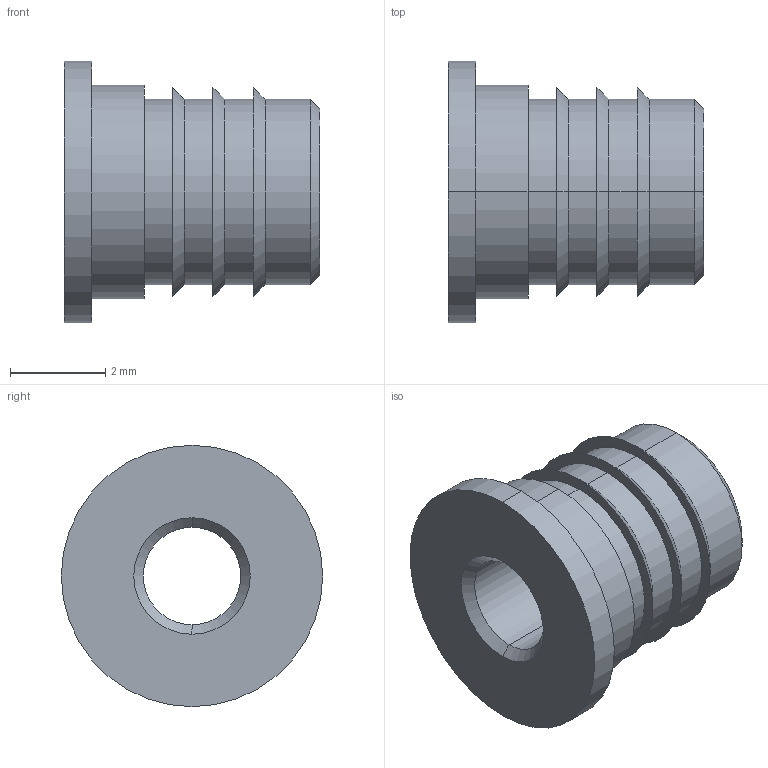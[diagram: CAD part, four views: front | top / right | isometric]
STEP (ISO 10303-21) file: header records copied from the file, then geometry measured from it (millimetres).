
FILE_DESCRIPTION (( 'STEP AP203' ), '1' );
FILE_NAME ('FSUK-PUH-M02.5-S.STEP', '2021-04-15T12:36:40', ( '' ), ( '' ), 'SwSTEP 2.0', 'SolidWorks 2021', '' );
FILE_SCHEMA (( 'CONFIG_CONTROL_DESIGN' ));
Length unit declared in the file: millimetre
Products named in the file (1): FSUK-PUH-M02.5-S
Bounding box: 5.38 x 5.5 x 5.5 mm (x, y, z)
Volume: 58.4 mm3; surface area: 158 mm2
Topology: 1 solids, 1 shells, 33 faces, 66 edges, 40 vertices
Faces by surface type: cylinder 14, cone 12, plane 7
Entity records: 945 total; most frequent: DIRECTION 174, CARTESIAN_POINT 140, ORIENTED_EDGE 132, AXIS2_PLACEMENT_3D 74, EDGE_CURVE 66, CIRCLE 40, EDGE_LOOP 40, VERTEX_POINT 40
